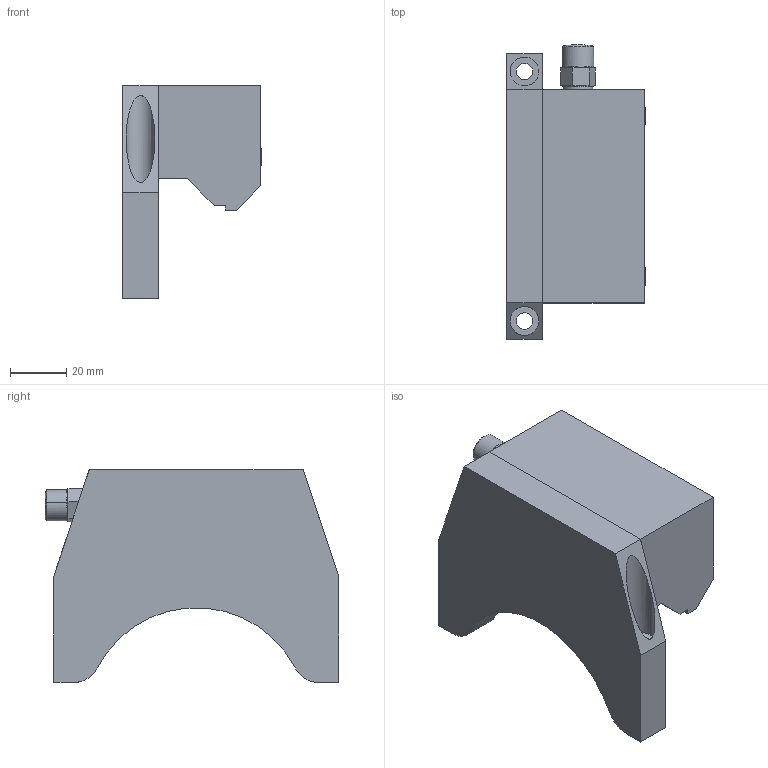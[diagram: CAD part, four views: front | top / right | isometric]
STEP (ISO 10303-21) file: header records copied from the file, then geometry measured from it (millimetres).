
FILE_DESCRIPTION (( 'STEP AP214' ), '1' );
FILE_NAME ('ANA-100.STEP', '2017-09-11T14:00:18', ( '' ), ( '' ), 'SwSTEP 2.0', 'SolidWorks 2017', '' );
FILE_SCHEMA (( 'AUTOMOTIVE_DESIGN' ));
Length unit declared in the file: inch
Products named in the file (1): ANA-100
Bounding box: 49.39 x 104.65 x 75.82 mm (x, y, z)
Volume: 175175.3 mm3; surface area: 28518.3 mm2
Topology: 1 solids, 1 shells, 114 faces, 287 edges, 180 vertices
Faces by surface type: plane 62, cylinder 17, cone 15, torus 14, bspline 6
Entity records: 3897 total; most frequent: CARTESIAN_POINT 1128, ORIENTED_EDGE 574, DIRECTION 573, EDGE_CURVE 287, AXIS2_PLACEMENT_3D 213, VERTEX_POINT 180, VECTOR 147, LINE 147
